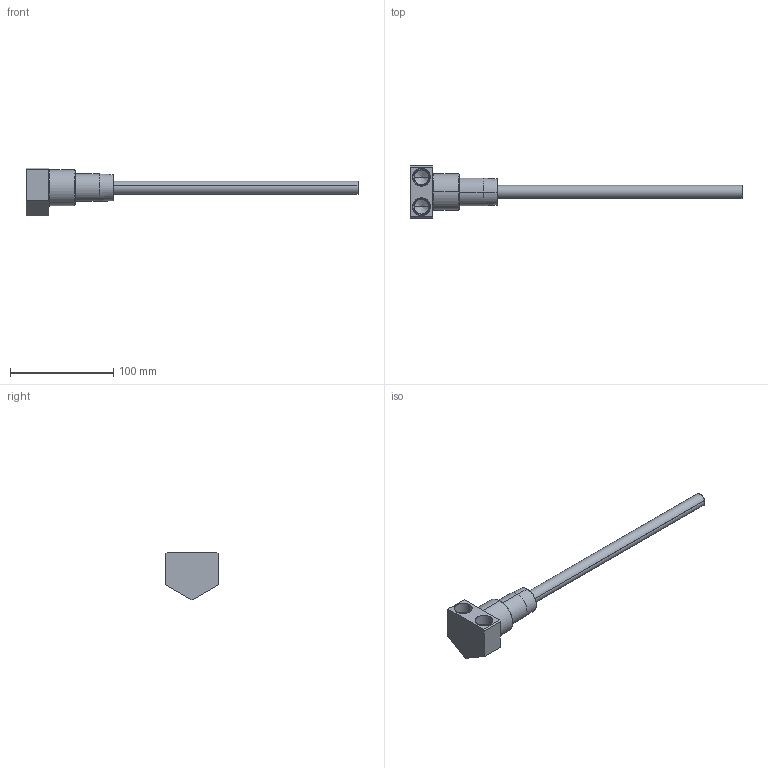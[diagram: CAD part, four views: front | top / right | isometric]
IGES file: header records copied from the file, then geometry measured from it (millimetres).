
Start section: SolidWorks IGES file using analytic representation for surfaces
Global section: file name: C:\Users\365admin\AppData\Local\Temp\InFlowConvert3DWorking\CC3438.igs; native system: SolidWorks 2019; preprocessor: SolidWorks 2019; author: 365admin; date: 220127.103631; units: inch
Bounding box: 321.69 x 50.8 x 46.41 mm (x, y, z)
Surface area: 46759.3 mm2 (no closed solid volume)
Topology: 0 solids, 0 shells, 56 faces, 930 edges, 924 vertices
Faces by surface type: revolution 36, bspline 20
